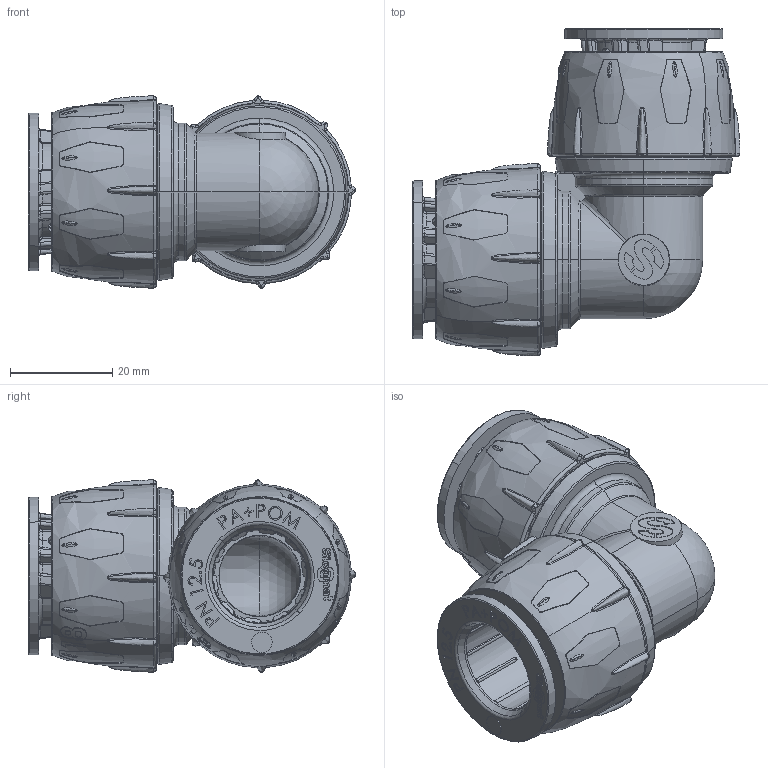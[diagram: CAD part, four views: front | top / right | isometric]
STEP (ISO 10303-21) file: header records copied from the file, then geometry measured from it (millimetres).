
FILE_DESCRIPTION (( 'STEP AP203' ), '1' );
FILE_NAME ('R213.018.000.STEP', '2024-08-01T10:15:53', ( '' ), ( '' ), 'SwSTEP 2.0', 'SolidWorks 2021', '' );
FILE_SCHEMA (( 'CONFIG_CONTROL_DESIGN' ));
Length unit declared in the file: millimetre
Products named in the file (7): R209.018.001; GUARNIZIONI OR_OR-123; R209.018.003; R209.018.002; R213.018.000; R213.018.018-L; R216.018.000
Assembly tree (11 placements, depth 2):
  R213.018.000
    R209.018.002  x2
    R216.018.000  x2
    R209.018.003  x2
    R209.018.001  x2
    GUARNIZIONI OR_OR-123  x2
    R213.018.018-L
Bounding box: 64.25 x 64.25 x 37.69 mm (x, y, z)
Volume: 37897.2 mm3; surface area: 37341 mm2
Topology: 11 solids, 11 shells, 2606 faces, 6544 edges, 4090 vertices
Faces by surface type: bspline 840, plane 746, cylinder 595, cone 184, torus 158, sphere 83
Entity records: 87826 total; most frequent: CARTESIAN_POINT 55981, ORIENTED_EDGE 7312, DIRECTION 5166, EDGE_CURVE 3656, VERTEX_POINT 2302, AXIS2_PLACEMENT_3D 1987, EDGE_LOOP 1566, ADVANCED_FACE 1460
